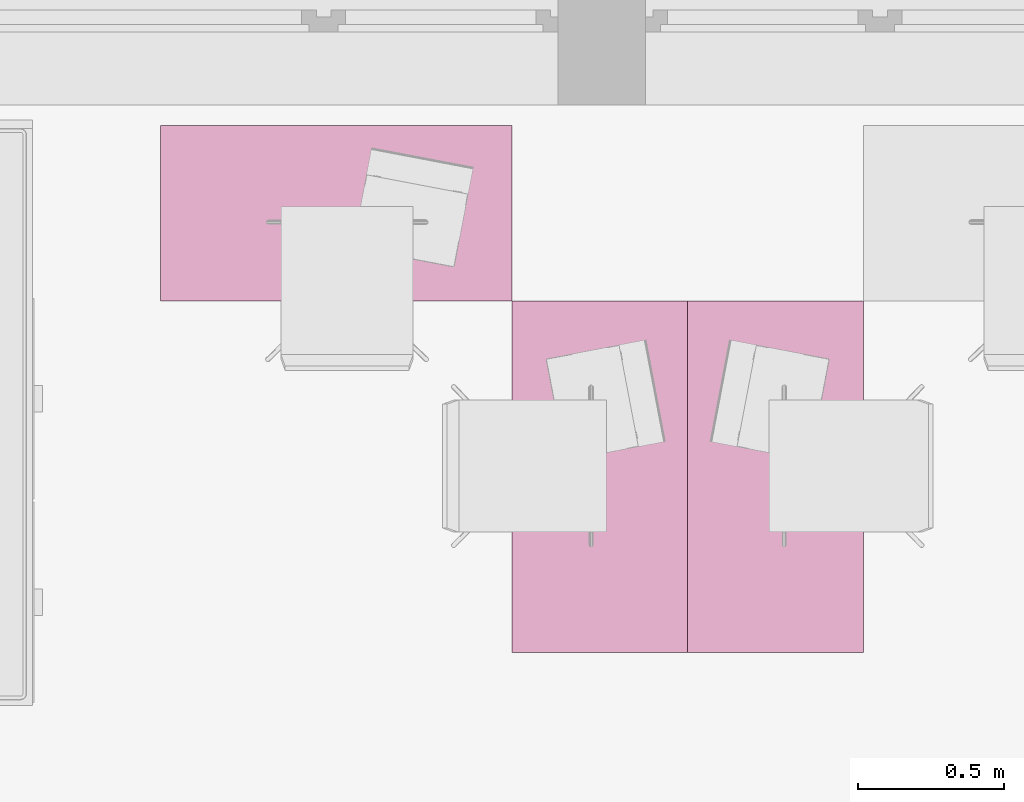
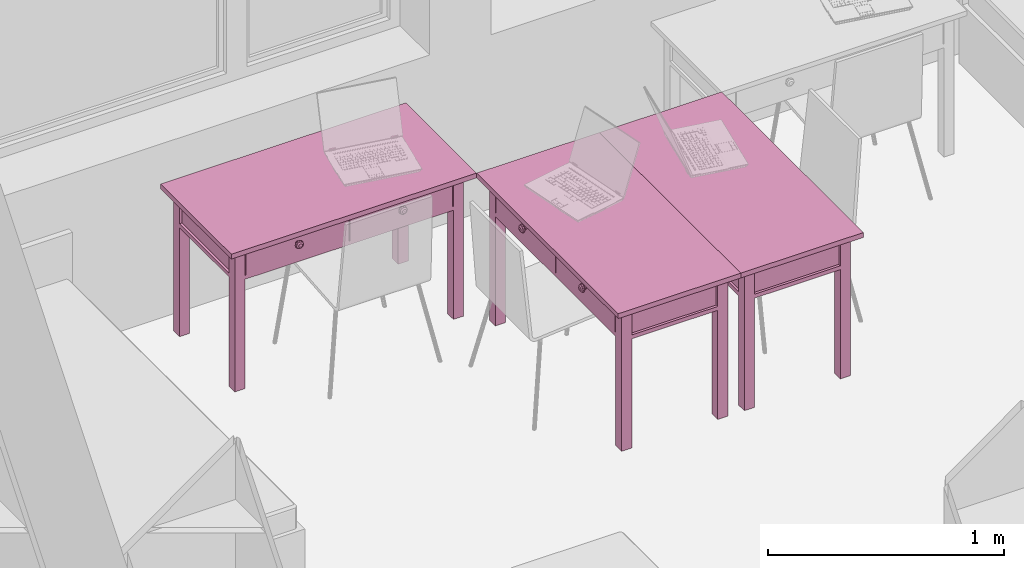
# One storey, part 153 of 172: 3 furnishings.
"""IFC2X3 building model written with IfcOpenShell, lengths in millimetres."""

from ifc_helpers import new_model, entity, si_unit, converted_unit, money_unit, direction, frame, origin_with_axes, place, context, subcontext, project, spatial, faceted_brep, source, transform, mapped, material, material_list, type_object, element, save


model = new_model("IFC2X3")

# Units and contexts
model_context = context("Model", 3, precision=1e-05, world=origin_with_axes(), true_north=direction((0.0, 1.0)))
body_context = subcontext(model_context, "Body", "Model", "MODEL_VIEW")
ifc_project = project(units=[si_unit("LENGTHUNIT", "METRE", prefix="MILLI"), si_unit("AREAUNIT", "SQUARE_METRE"), si_unit("VOLUMEUNIT", "CUBIC_METRE"), converted_unit("PLANEANGLEUNIT", "DEGREE", entity("IfcPlaneAngleMeasure", 0.0174532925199), si_unit("PLANEANGLEUNIT", "RADIAN"), dimensions=[0, 0, 0, 0, 0, 0, 0]), si_unit("SOLIDANGLEUNIT", "STERADIAN"), money_unit("USD"), converted_unit("TIMEUNIT", "Year", entity("IfcTimeMeasure", 31556926.0), si_unit("TIMEUNIT", "SECOND"), dimensions=[0, 0, 0, 0, 0, 0, 0]), si_unit("MASSUNIT", "GRAM"), si_unit("THERMODYNAMICTEMPERATUREUNIT", "DEGREE_CELSIUS"), si_unit("LUMINOUSINTENSITYUNIT", "LUMEN")], contexts=[model_context])

# Site, building, storey
site_placement = place(None, origin_with_axes())
site = spatial("IfcSite", under=ifc_project, at=site_placement, Name="Site", CompositionType="ELEMENT")
building_placement = place(site_placement, origin_with_axes())
building = spatial("IfcBuilding", under=site, at=building_placement, Name="Building", CompositionType="ELEMENT")
storey_placement = place(building_placement, frame((0.0, 0.0, 3200.0), z_axis=(0.0, 0.0, 1.0), x_axis=(1.0, 0.0, 0.0)))
storey = spatial("IfcBuildingStorey", under=building, at=storey_placement, Name="3KORRUS", CompositionType="ELEMENT", Elevation=3200.0)

# Furnishings
ifc_material = material(Name="Background")
ifc_material_list = material_list([ifc_material])
furnishing_element_type = type_object("IfcFurnishingElementType", Name="Rectangular Table 01 19")
shared_shape_1 = source(origin_with_axes(), body_context, "Body", "Brep", [
    faceted_brep([(90.0, 40.0, 0.0), (40.0, 40.0, 0.0), (40.0, 90.0, 0.0), (90.0, 90.0, 0.0), (90.0, 40.0, 725.0), (40.0, 40.0, 725.0), (40.0, 90.0, 725.0), (90.0, 90.0, 725.0)], [[[0, 1, 2, 3]], [[1, 0, 4, 5]], [[2, 1, 5, 6]], [[3, 2, 6, 7]], [[0, 3, 7, 4]], [[5, 4, 7, 6]]]),
    faceted_brep([(1160.0, 40.0, 0.0), (1110.0, 40.0, 0.0), (1110.0, 90.0, 0.0), (1160.0, 90.0, 0.0), (1160.0, 40.0, 725.0), (1110.0, 40.0, 725.0), (1110.0, 90.0, 725.0), (1160.0, 90.0, 725.0)], [[[0, 1, 2, 3]], [[1, 0, 4, 5]], [[2, 1, 5, 6]], [[3, 2, 6, 7]], [[0, 3, 7, 4]], [[5, 4, 7, 6]]]),
    faceted_brep([(90.0, 510.0, 0.0), (40.0, 510.0, 0.0), (40.0, 560.0, 0.0), (90.0, 560.0, 0.0), (90.0, 510.0, 725.0), (40.0, 510.0, 725.0), (40.0, 560.0, 725.0), (90.0, 560.0, 725.0)], [[[0, 1, 2, 3]], [[1, 0, 4, 5]], [[2, 1, 5, 6]], [[3, 2, 6, 7]], [[0, 3, 7, 4]], [[5, 4, 7, 6]]]),
    faceted_brep([(1160.0, 510.0, 0.0), (1110.0, 510.0, 0.0), (1110.0, 560.0, 0.0), (1160.0, 560.0, 0.0), (1160.0, 510.0, 725.0), (1110.0, 510.0, 725.0), (1110.0, 560.0, 725.0), (1160.0, 560.0, 725.0)], [[[0, 1, 2, 3]], [[1, 0, 4, 5]], [[2, 1, 5, 6]], [[3, 2, 6, 7]], [[0, 3, 7, 4]], [[5, 4, 7, 6]]]),
    faceted_brep([(1160.0, 40.0, 565.0), (40.0, 40.0, 565.0), (40.0, 560.0, 565.0), (1160.0, 560.0, 565.0), (1160.0, 40.0, 585.0), (40.0, 40.0, 585.0), (40.0, 560.0, 585.0), (1160.0, 560.0, 585.0)], [[[0, 1, 2, 3]], [[1, 0, 4, 5]], [[2, 1, 5, 6]], [[3, 2, 6, 7]], [[0, 3, 7, 4]], [[5, 4, 7, 6]]]),
    faceted_brep([(1110.0, 52.5, 585.0), (90.0, 52.5, 585.0), (90.0, 77.5, 585.0), (1110.0, 77.5, 585.0), (1110.0, 52.5, 745.0), (90.0, 52.5, 745.0), (90.0, 77.5, 745.0), (1110.0, 77.5, 745.0)], [[[0, 1, 2, 3]], [[1, 0, 4, 5]], [[2, 1, 5, 6]], [[3, 2, 6, 7]], [[0, 3, 7, 4]], [[5, 4, 7, 6]]]),
    faceted_brep([(77.5, 90.0, 585.0), (52.5, 90.0, 585.0), (52.5, 510.0, 585.0), (77.5, 510.0, 585.0), (77.5, 90.0, 745.0), (52.5, 90.0, 745.0), (52.5, 510.0, 745.0), (77.5, 510.0, 745.0)], [[[0, 1, 2, 3]], [[1, 0, 4, 5]], [[2, 1, 5, 6]], [[3, 2, 6, 7]], [[0, 3, 7, 4]], [[5, 4, 7, 6]]]),
    faceted_brep([(90.0, 547.5, 585.0), (1110.0, 547.5, 585.0), (1110.0, 522.5, 585.0), (90.0, 522.5, 585.0), (90.0, 547.5, 745.0), (1110.0, 547.5, 745.0), (1110.0, 522.5, 745.0), (90.0, 522.5, 745.0)], [[[0, 1, 2, 3]], [[1, 0, 4, 5]], [[2, 1, 5, 6]], [[3, 2, 6, 7]], [[0, 3, 7, 4]], [[5, 4, 7, 6]]]),
    faceted_brep([(1122.5, 510.0, 585.0), (1147.5, 510.0, 585.0), (1147.5, 90.0, 585.0), (1122.5, 90.0, 585.0), (1122.5, 510.0, 745.0), (1147.5, 510.0, 745.0), (1147.5, 90.0, 745.0), (1122.5, 90.0, 745.0)], [[[0, 1, 2, 3]], [[1, 0, 4, 5]], [[2, 1, 5, 6]], [[3, 2, 6, 7]], [[0, 3, 7, 4]], [[5, 4, 7, 6]]]),
    faceted_brep([(597.5, 40.0, 585.0), (95.0, 40.0, 585.0), (95.0, 60.0, 585.0), (597.5, 60.0, 585.0), (597.5, 40.0, 745.0), (95.0, 40.0, 745.0), (95.0, 60.0, 745.0), (597.5, 60.0, 745.0)], [[[0, 1, 2, 3]], [[1, 0, 4, 5]], [[2, 1, 5, 6]], [[3, 2, 6, 7]], [[0, 3, 7, 4]], [[5, 4, 7, 6]]]),
    faceted_brep([(1105.0, 40.0, 585.0), (602.5, 40.0, 585.0), (602.5, 60.0, 585.0), (1105.0, 60.0, 585.0), (1105.0, 40.0, 745.0), (602.5, 40.0, 745.0), (602.5, 60.0, 745.0), (1105.0, 60.0, 745.0)], [[[0, 1, 2, 3]], [[1, 0, 4, 5]], [[2, 1, 5, 6]], [[3, 2, 6, 7]], [[0, 3, 7, 4]], [[5, 4, 7, 6]]]),
    faceted_brep([(354.91, 40.0, 660.0), (351.25, 40.0, 656.34), (346.25, 40.0, 655.0), (341.25, 40.0, 656.34), (337.59, 40.0, 660.0), (336.25, 40.0, 665.0), (337.59, 40.0, 670.0), (341.25, 40.0, 673.66), (346.25, 40.0, 675.0), (351.25, 40.0, 673.66), (354.91, 40.0, 670.0), (356.25, 40.0, 665.0), (354.91, 25.0, 660.0), (351.25, 25.0, 656.34), (346.25, 25.0, 655.0), (341.25, 25.0, 656.34), (337.59, 25.0, 660.0), (336.25, 25.0, 665.0), (337.59, 25.0, 670.0), (341.25, 25.0, 673.66), (346.25, 25.0, 675.0), (351.25, 25.0, 673.66), (354.91, 25.0, 670.0), (356.25, 25.0, 665.0)], [[[0, 1, 2, 3, 4, 5, 6, 7, 8, 9, 10, 11]], [[1, 0, 12, 13]], [[2, 1, 13, 14]], [[3, 2, 14, 15]], [[4, 3, 15, 16]], [[5, 4, 16, 17]], [[6, 5, 17, 18]], [[7, 6, 18, 19]], [[8, 7, 19, 20]], [[9, 8, 20, 21]], [[10, 9, 21, 22]], [[11, 10, 22, 23]], [[0, 11, 23, 12]], [[12, 23, 22, 21, 20, 19, 18, 17, 16, 15, 14, 13]]]),
    faceted_brep([(356.25, 12.01, 665.0), (346.25, 10.0, 665.0), (354.91, 12.01, 660.0), (354.91, 12.01, 670.0), (351.25, 12.01, 656.34), (363.571, 17.5, 665.0), (361.25, 17.5, 656.34), (351.25, 12.01, 673.66), (361.25, 17.5, 673.66), (346.25, 12.01, 655.0), (354.91, 17.5, 650.0), (366.25, 25.0, 665.0), (363.571, 25.0, 655.0), (346.25, 12.01, 675.0), (354.91, 17.5, 680.0), (363.571, 25.0, 675.0), (341.25, 12.01, 656.34), (346.25, 17.5, 647.679), (356.25, 25.0, 647.679), (346.25, 25.0, 645.0), (336.25, 25.0, 647.679), (328.929, 25.0, 655.0), (326.25, 25.0, 665.0), (328.929, 25.0, 675.0), (336.25, 25.0, 682.321), (346.25, 25.0, 685.0), (356.25, 25.0, 682.321), (341.25, 12.01, 673.66), (346.25, 17.5, 682.321), (337.59, 12.01, 660.0), (337.59, 17.5, 650.0), (331.25, 17.5, 656.34), (328.929, 17.5, 665.0), (331.25, 17.5, 673.66), (337.59, 17.5, 680.0), (337.59, 12.01, 670.0), (336.25, 12.01, 665.0)], [[[0, 1, 2]], [[3, 1, 0]], [[2, 1, 4]], [[5, 0, 2, 6]], [[7, 1, 3]], [[8, 3, 0, 5]], [[4, 1, 9]], [[6, 2, 4, 10]], [[11, 5, 6, 12]], [[13, 1, 7]], [[14, 7, 3, 8]], [[15, 8, 5, 11]], [[9, 1, 16]], [[10, 4, 9, 17]], [[12, 6, 10, 18]], [[12, 18, 19, 20, 21, 22, 23, 24, 25, 26, 15, 11]], [[27, 1, 13]], [[28, 13, 7, 14]], [[26, 14, 8, 15]], [[16, 1, 29]], [[17, 9, 16, 30]], [[18, 10, 17, 19]], [[19, 17, 30, 20]], [[20, 30, 31, 21]], [[21, 31, 32, 22]], [[22, 32, 33, 23]], [[23, 33, 34, 24]], [[24, 34, 28, 25]], [[25, 28, 14, 26]], [[35, 1, 27]], [[34, 27, 13, 28]], [[29, 1, 36]], [[30, 16, 29, 31]], [[31, 29, 36, 32]], [[32, 36, 35, 33]], [[33, 35, 27, 34]], [[36, 1, 35]]]),
    faceted_brep([(862.41, 40.0, 660.0), (858.75, 40.0, 656.34), (853.75, 40.0, 655.0), (848.75, 40.0, 656.34), (845.09, 40.0, 660.0), (843.75, 40.0, 665.0), (845.09, 40.0, 670.0), (848.75, 40.0, 673.66), (853.75, 40.0, 675.0), (858.75, 40.0, 673.66), (862.41, 40.0, 670.0), (863.75, 40.0, 665.0), (862.41, 25.0, 660.0), (858.75, 25.0, 656.34), (853.75, 25.0, 655.0), (848.75, 25.0, 656.34), (845.09, 25.0, 660.0), (843.75, 25.0, 665.0), (845.09, 25.0, 670.0), (848.75, 25.0, 673.66), (853.75, 25.0, 675.0), (858.75, 25.0, 673.66), (862.41, 25.0, 670.0), (863.75, 25.0, 665.0)], [[[0, 1, 2, 3, 4, 5, 6, 7, 8, 9, 10, 11]], [[1, 0, 12, 13]], [[2, 1, 13, 14]], [[3, 2, 14, 15]], [[4, 3, 15, 16]], [[5, 4, 16, 17]], [[6, 5, 17, 18]], [[7, 6, 18, 19]], [[8, 7, 19, 20]], [[9, 8, 20, 21]], [[10, 9, 21, 22]], [[11, 10, 22, 23]], [[0, 11, 23, 12]], [[12, 23, 22, 21, 20, 19, 18, 17, 16, 15, 14, 13]]]),
    faceted_brep([(863.75, 12.01, 665.0), (853.75, 10.0, 665.0), (862.41, 12.01, 660.0), (862.41, 12.01, 670.0), (858.75, 12.01, 656.34), (871.071, 17.5, 665.0), (868.75, 17.5, 656.34), (858.75, 12.01, 673.66), (868.75, 17.5, 673.66), (853.75, 12.01, 655.0), (862.41, 17.5, 650.0), (873.75, 25.0, 665.0), (871.071, 25.0, 655.0), (853.75, 12.01, 675.0), (862.41, 17.5, 680.0), (871.071, 25.0, 675.0), (848.75, 12.01, 656.34), (853.75, 17.5, 647.679), (863.75, 25.0, 647.679), (853.75, 25.0, 645.0), (843.75, 25.0, 647.679), (836.429, 25.0, 655.0), (833.75, 25.0, 665.0), (836.429, 25.0, 675.0), (843.75, 25.0, 682.321), (853.75, 25.0, 685.0), (863.75, 25.0, 682.321), (848.75, 12.01, 673.66), (853.75, 17.5, 682.321), (845.09, 12.01, 660.0), (845.09, 17.5, 650.0), (838.75, 17.5, 656.34), (836.429, 17.5, 665.0), (838.75, 17.5, 673.66), (845.09, 17.5, 680.0), (845.09, 12.01, 670.0), (843.75, 12.01, 665.0)], [[[0, 1, 2]], [[3, 1, 0]], [[2, 1, 4]], [[5, 0, 2, 6]], [[7, 1, 3]], [[8, 3, 0, 5]], [[4, 1, 9]], [[6, 2, 4, 10]], [[11, 5, 6, 12]], [[13, 1, 7]], [[14, 7, 3, 8]], [[15, 8, 5, 11]], [[9, 1, 16]], [[10, 4, 9, 17]], [[12, 6, 10, 18]], [[12, 18, 19, 20, 21, 22, 23, 24, 25, 26, 15, 11]], [[27, 1, 13]], [[28, 13, 7, 14]], [[26, 14, 8, 15]], [[16, 1, 29]], [[17, 9, 16, 30]], [[18, 10, 17, 19]], [[19, 17, 30, 20]], [[20, 30, 31, 21]], [[21, 31, 32, 22]], [[22, 32, 33, 23]], [[23, 33, 34, 24]], [[24, 34, 28, 25]], [[25, 28, 14, 26]], [[35, 1, 27]], [[34, 27, 13, 28]], [[29, 1, 36]], [[30, 16, 29, 31]], [[31, 29, 36, 32]], [[32, 36, 35, 33]], [[33, 35, 27, 34]], [[36, 1, 35]]]),
    faceted_brep([(1200.0, 0.0, 725.0), (0.0, 0.0, 725.0), (0.0, 600.0, 725.0), (1200.0, 600.0, 725.0), (1200.0, 0.0, 750.0), (0.0, 0.0, 750.0), (0.0, 600.0, 750.0), (1200.0, 600.0, 750.0)], [[[0, 1, 2, 3]], [[1, 0, 4, 5]], [[2, 1, 5, 6]], [[3, 2, 6, 7]], [[0, 3, 7, 4]], [[5, 4, 7, 6]]]),
])
furnishing_placement = place(storey_placement, frame((14547.396797, -5809.21572375, 0.0), z_axis=(0.0, 0.0, 1.0), x_axis=(0.0, -1.0, 0.0)))
element("IfcFurnishingElement", 1, at=furnishing_placement, inside=storey, type_object=furnishing_element_type, material=ifc_material_list, Name="FU - 011", context=body_context, shape_type="MappedRepresentation", body=[
    mapped(shared_shape_1, transform((0.0, 0.0, 0.0))),
])
shared_shape_2 = source(origin_with_axes(), body_context, "Body", "Brep", [
    faceted_brep([(-90.0, 40.0, 0.0), (-90.0, 90.0, 0.0), (-40.0, 90.0, 0.0), (-40.0, 40.0, 0.0), (-90.0, 40.0, 725.0), (-90.0, 90.0, 725.0), (-40.0, 90.0, 725.0), (-40.0, 40.0, 725.0)], [[[0, 1, 2, 3]], [[0, 4, 5, 1]], [[1, 5, 6, 2]], [[2, 6, 7, 3]], [[3, 7, 4, 0]], [[7, 6, 5, 4]]]),
    faceted_brep([(-1160.0, 40.0, 0.0), (-1160.0, 90.0, 0.0), (-1110.0, 90.0, 0.0), (-1110.0, 40.0, 0.0), (-1160.0, 40.0, 725.0), (-1160.0, 90.0, 725.0), (-1110.0, 90.0, 725.0), (-1110.0, 40.0, 725.0)], [[[0, 1, 2, 3]], [[0, 4, 5, 1]], [[1, 5, 6, 2]], [[2, 6, 7, 3]], [[3, 7, 4, 0]], [[7, 6, 5, 4]]]),
    faceted_brep([(-90.0, 510.0, 0.0), (-90.0, 560.0, 0.0), (-40.0, 560.0, 0.0), (-40.0, 510.0, 0.0), (-90.0, 510.0, 725.0), (-90.0, 560.0, 725.0), (-40.0, 560.0, 725.0), (-40.0, 510.0, 725.0)], [[[0, 1, 2, 3]], [[0, 4, 5, 1]], [[1, 5, 6, 2]], [[2, 6, 7, 3]], [[3, 7, 4, 0]], [[7, 6, 5, 4]]]),
    faceted_brep([(-1160.0, 510.0, 0.0), (-1160.0, 560.0, 0.0), (-1110.0, 560.0, 0.0), (-1110.0, 510.0, 0.0), (-1160.0, 510.0, 725.0), (-1160.0, 560.0, 725.0), (-1110.0, 560.0, 725.0), (-1110.0, 510.0, 725.0)], [[[0, 1, 2, 3]], [[0, 4, 5, 1]], [[1, 5, 6, 2]], [[2, 6, 7, 3]], [[3, 7, 4, 0]], [[7, 6, 5, 4]]]),
    faceted_brep([(-1160.0, 40.0, 565.0), (-1160.0, 560.0, 565.0), (-40.0, 560.0, 565.0), (-40.0, 40.0, 565.0), (-1160.0, 40.0, 585.0), (-1160.0, 560.0, 585.0), (-40.0, 560.0, 585.0), (-40.0, 40.0, 585.0)], [[[0, 1, 2, 3]], [[0, 4, 5, 1]], [[1, 5, 6, 2]], [[2, 6, 7, 3]], [[3, 7, 4, 0]], [[7, 6, 5, 4]]]),
    faceted_brep([(-1110.0, 52.5, 585.0), (-1110.0, 77.5, 585.0), (-90.0, 77.5, 585.0), (-90.0, 52.5, 585.0), (-1110.0, 52.5, 745.0), (-1110.0, 77.5, 745.0), (-90.0, 77.5, 745.0), (-90.0, 52.5, 745.0)], [[[0, 1, 2, 3]], [[0, 4, 5, 1]], [[1, 5, 6, 2]], [[2, 6, 7, 3]], [[3, 7, 4, 0]], [[7, 6, 5, 4]]]),
    faceted_brep([(-77.5, 90.0, 585.0), (-77.5, 510.0, 585.0), (-52.5, 510.0, 585.0), (-52.5, 90.0, 585.0), (-77.5, 90.0, 745.0), (-77.5, 510.0, 745.0), (-52.5, 510.0, 745.0), (-52.5, 90.0, 745.0)], [[[0, 1, 2, 3]], [[0, 4, 5, 1]], [[1, 5, 6, 2]], [[2, 6, 7, 3]], [[3, 7, 4, 0]], [[7, 6, 5, 4]]]),
    faceted_brep([(-90.0, 547.5, 585.0), (-90.0, 522.5, 585.0), (-1110.0, 522.5, 585.0), (-1110.0, 547.5, 585.0), (-90.0, 547.5, 745.0), (-90.0, 522.5, 745.0), (-1110.0, 522.5, 745.0), (-1110.0, 547.5, 745.0)], [[[0, 1, 2, 3]], [[0, 4, 5, 1]], [[1, 5, 6, 2]], [[2, 6, 7, 3]], [[3, 7, 4, 0]], [[7, 6, 5, 4]]]),
    faceted_brep([(-1122.5, 510.0, 585.0), (-1122.5, 90.0, 585.0), (-1147.5, 90.0, 585.0), (-1147.5, 510.0, 585.0), (-1122.5, 510.0, 745.0), (-1122.5, 90.0, 745.0), (-1147.5, 90.0, 745.0), (-1147.5, 510.0, 745.0)], [[[0, 1, 2, 3]], [[0, 4, 5, 1]], [[1, 5, 6, 2]], [[2, 6, 7, 3]], [[3, 7, 4, 0]], [[7, 6, 5, 4]]]),
    faceted_brep([(-597.5, 40.0, 585.0), (-597.5, 60.0, 585.0), (-95.0, 60.0, 585.0), (-95.0, 40.0, 585.0), (-597.5, 40.0, 745.0), (-597.5, 60.0, 745.0), (-95.0, 60.0, 745.0), (-95.0, 40.0, 745.0)], [[[0, 1, 2, 3]], [[0, 4, 5, 1]], [[1, 5, 6, 2]], [[2, 6, 7, 3]], [[3, 7, 4, 0]], [[7, 6, 5, 4]]]),
    faceted_brep([(-1105.0, 40.0, 585.0), (-1105.0, 60.0, 585.0), (-602.5, 60.0, 585.0), (-602.5, 40.0, 585.0), (-1105.0, 40.0, 745.0), (-1105.0, 60.0, 745.0), (-602.5, 60.0, 745.0), (-602.5, 40.0, 745.0)], [[[0, 1, 2, 3]], [[0, 4, 5, 1]], [[1, 5, 6, 2]], [[2, 6, 7, 3]], [[3, 7, 4, 0]], [[7, 6, 5, 4]]]),
    faceted_brep([(-354.91, 40.0, 660.0), (-356.25, 40.0, 665.0), (-354.91, 40.0, 670.0), (-351.25, 40.0, 673.66), (-346.25, 40.0, 675.0), (-341.25, 40.0, 673.66), (-337.59, 40.0, 670.0), (-336.25, 40.0, 665.0), (-337.59, 40.0, 660.0), (-341.25, 40.0, 656.34), (-346.25, 40.0, 655.0), (-351.25, 40.0, 656.34), (-354.91, 25.0, 660.0), (-356.25, 25.0, 665.0), (-354.91, 25.0, 670.0), (-351.25, 25.0, 673.66), (-346.25, 25.0, 675.0), (-341.25, 25.0, 673.66), (-337.59, 25.0, 670.0), (-336.25, 25.0, 665.0), (-337.59, 25.0, 660.0), (-341.25, 25.0, 656.34), (-346.25, 25.0, 655.0), (-351.25, 25.0, 656.34)], [[[0, 1, 2, 3, 4, 5, 6, 7, 8, 9, 10, 11]], [[0, 12, 13, 1]], [[1, 13, 14, 2]], [[2, 14, 15, 3]], [[3, 15, 16, 4]], [[4, 16, 17, 5]], [[5, 17, 18, 6]], [[6, 18, 19, 7]], [[7, 19, 20, 8]], [[8, 20, 21, 9]], [[9, 21, 22, 10]], [[10, 22, 23, 11]], [[11, 23, 12, 0]], [[12, 23, 22, 21, 20, 19, 18, 17, 16, 15, 14, 13]]]),
    faceted_brep([(-356.25, 12.01, 665.0), (-354.91, 12.01, 660.0), (-346.25, 10.0, 665.0), (-363.571, 17.5, 665.0), (-361.25, 17.5, 656.34), (-351.25, 12.01, 656.34), (-354.91, 12.01, 670.0), (-366.25, 25.0, 665.0), (-363.571, 25.0, 655.0), (-354.91, 17.5, 650.0), (-361.25, 17.5, 673.66), (-346.25, 12.01, 655.0), (-351.25, 12.01, 673.66), (-363.571, 25.0, 675.0), (-356.25, 25.0, 682.321), (-346.25, 25.0, 685.0), (-336.25, 25.0, 682.321), (-328.929, 25.0, 675.0), (-326.25, 25.0, 665.0), (-328.929, 25.0, 655.0), (-336.25, 25.0, 647.679), (-346.25, 25.0, 645.0), (-356.25, 25.0, 647.679), (-346.25, 17.5, 647.679), (-354.91, 17.5, 680.0), (-341.25, 12.01, 656.34), (-346.25, 12.01, 675.0), (-346.25, 17.5, 682.321), (-337.59, 17.5, 680.0), (-331.25, 17.5, 673.66), (-328.929, 17.5, 665.0), (-331.25, 17.5, 656.34), (-337.59, 17.5, 650.0), (-337.59, 12.01, 660.0), (-341.25, 12.01, 673.66), (-337.59, 12.01, 670.0), (-336.25, 12.01, 665.0)], [[[0, 1, 2]], [[3, 4, 1, 0]], [[1, 5, 2]], [[6, 0, 2]], [[7, 8, 4, 3]], [[4, 9, 5, 1]], [[10, 3, 0, 6]], [[5, 11, 2]], [[12, 6, 2]], [[8, 7, 13, 14, 15, 16, 17, 18, 19, 20, 21, 22]], [[8, 22, 9, 4]], [[13, 7, 3, 10]], [[9, 23, 11, 5]], [[24, 10, 6, 12]], [[11, 25, 2]], [[26, 12, 2]], [[14, 13, 10, 24]], [[15, 14, 24, 27]], [[16, 15, 27, 28]], [[17, 16, 28, 29]], [[18, 17, 29, 30]], [[19, 18, 30, 31]], [[20, 19, 31, 32]], [[21, 20, 32, 23]], [[22, 21, 23, 9]], [[23, 32, 25, 11]], [[27, 24, 12, 26]], [[25, 33, 2]], [[34, 26, 2]], [[28, 27, 26, 34]], [[29, 28, 34, 35]], [[30, 29, 35, 36]], [[31, 30, 36, 33]], [[32, 31, 33, 25]], [[33, 36, 2]], [[35, 34, 2]], [[36, 35, 2]]]),
    faceted_brep([(-862.41, 40.0, 660.0), (-863.75, 40.0, 665.0), (-862.41, 40.0, 670.0), (-858.75, 40.0, 673.66), (-853.75, 40.0, 675.0), (-848.75, 40.0, 673.66), (-845.09, 40.0, 670.0), (-843.75, 40.0, 665.0), (-845.09, 40.0, 660.0), (-848.75, 40.0, 656.34), (-853.75, 40.0, 655.0), (-858.75, 40.0, 656.34), (-862.41, 25.0, 660.0), (-863.75, 25.0, 665.0), (-862.41, 25.0, 670.0), (-858.75, 25.0, 673.66), (-853.75, 25.0, 675.0), (-848.75, 25.0, 673.66), (-845.09, 25.0, 670.0), (-843.75, 25.0, 665.0), (-845.09, 25.0, 660.0), (-848.75, 25.0, 656.34), (-853.75, 25.0, 655.0), (-858.75, 25.0, 656.34)], [[[0, 1, 2, 3, 4, 5, 6, 7, 8, 9, 10, 11]], [[0, 12, 13, 1]], [[1, 13, 14, 2]], [[2, 14, 15, 3]], [[3, 15, 16, 4]], [[4, 16, 17, 5]], [[5, 17, 18, 6]], [[6, 18, 19, 7]], [[7, 19, 20, 8]], [[8, 20, 21, 9]], [[9, 21, 22, 10]], [[10, 22, 23, 11]], [[11, 23, 12, 0]], [[12, 23, 22, 21, 20, 19, 18, 17, 16, 15, 14, 13]]]),
    faceted_brep([(-863.75, 12.01, 665.0), (-862.41, 12.01, 660.0), (-853.75, 10.0, 665.0), (-871.071, 17.5, 665.0), (-868.75, 17.5, 656.34), (-858.75, 12.01, 656.34), (-862.41, 12.01, 670.0), (-873.75, 25.0, 665.0), (-871.071, 25.0, 655.0), (-862.41, 17.5, 650.0), (-868.75, 17.5, 673.66), (-853.75, 12.01, 655.0), (-858.75, 12.01, 673.66), (-871.071, 25.0, 675.0), (-863.75, 25.0, 682.321), (-853.75, 25.0, 685.0), (-843.75, 25.0, 682.321), (-836.429, 25.0, 675.0), (-833.75, 25.0, 665.0), (-836.429, 25.0, 655.0), (-843.75, 25.0, 647.679), (-853.75, 25.0, 645.0), (-863.75, 25.0, 647.679), (-853.75, 17.5, 647.679), (-862.41, 17.5, 680.0), (-848.75, 12.01, 656.34), (-853.75, 12.01, 675.0), (-853.75, 17.5, 682.321), (-845.09, 17.5, 680.0), (-838.75, 17.5, 673.66), (-836.429, 17.5, 665.0), (-838.75, 17.5, 656.34), (-845.09, 17.5, 650.0), (-845.09, 12.01, 660.0), (-848.75, 12.01, 673.66), (-845.09, 12.01, 670.0), (-843.75, 12.01, 665.0)], [[[0, 1, 2]], [[3, 4, 1, 0]], [[1, 5, 2]], [[6, 0, 2]], [[7, 8, 4, 3]], [[4, 9, 5, 1]], [[10, 3, 0, 6]], [[5, 11, 2]], [[12, 6, 2]], [[8, 7, 13, 14, 15, 16, 17, 18, 19, 20, 21, 22]], [[8, 22, 9, 4]], [[13, 7, 3, 10]], [[9, 23, 11, 5]], [[24, 10, 6, 12]], [[11, 25, 2]], [[26, 12, 2]], [[14, 13, 10, 24]], [[15, 14, 24, 27]], [[16, 15, 27, 28]], [[17, 16, 28, 29]], [[18, 17, 29, 30]], [[19, 18, 30, 31]], [[20, 19, 31, 32]], [[21, 20, 32, 23]], [[22, 21, 23, 9]], [[23, 32, 25, 11]], [[27, 24, 12, 26]], [[25, 33, 2]], [[34, 26, 2]], [[28, 27, 26, 34]], [[29, 28, 34, 35]], [[30, 29, 35, 36]], [[31, 30, 36, 33]], [[32, 31, 33, 25]], [[33, 36, 2]], [[35, 34, 2]], [[36, 35, 2]]]),
    faceted_brep([(-1200.0, 0.0, 725.0), (-1200.0, 600.0, 725.0), (0.0, 600.0, 725.0), (0.0, 0.0, 725.0), (-1200.0, 0.0, 750.0), (-1200.0, 600.0, 750.0), (0.0, 600.0, 750.0), (0.0, 0.0, 750.0)], [[[0, 1, 2, 3]], [[0, 4, 5, 1]], [[1, 5, 6, 2]], [[2, 6, 7, 3]], [[3, 7, 4, 0]], [[7, 6, 5, 4]]]),
])
for number, where, z_axis, x_axis, name in (
    (2, (15747.396797, -5809.21572375, 0.0), (0.0, 0.0, 1.0), (0.0, 1.0, 0.0), "FU - 011"),
    (3, (14547.396797, -5809.21572375, 0.0), (0.0, 0.0, 1.0), (1.0, 0.0, 0.0), "FU - 011"),
):
    element("IfcFurnishingElement", number, at=place(storey_placement, frame(where, z_axis=z_axis, x_axis=x_axis)), inside=storey, type_object=furnishing_element_type, material=ifc_material_list, Name=name, context=body_context, shape_type="MappedRepresentation", body=[
        mapped(shared_shape_2, transform((0.0, 0.0, 0.0))),
    ])

save(model, "model.ifc")
